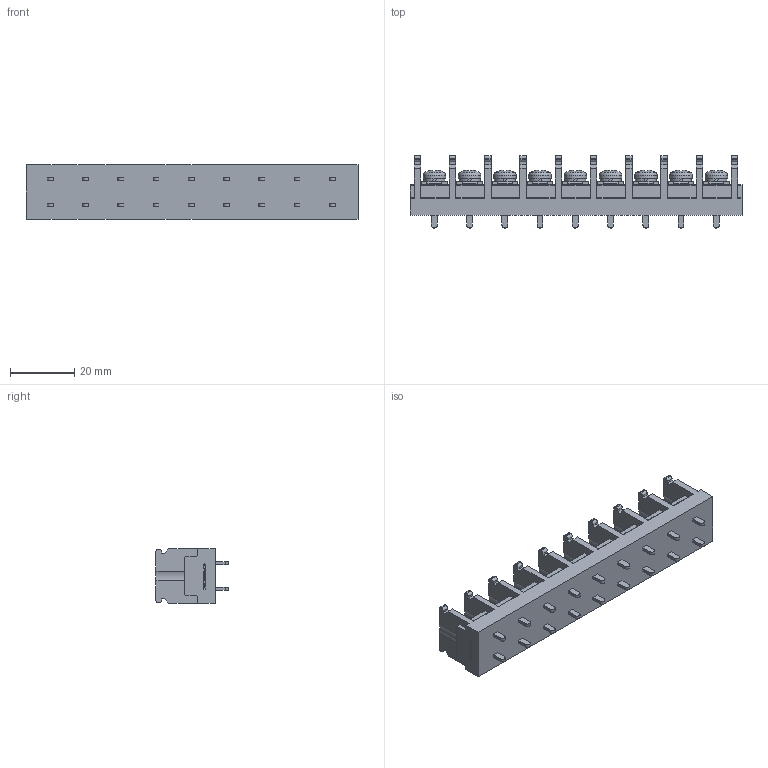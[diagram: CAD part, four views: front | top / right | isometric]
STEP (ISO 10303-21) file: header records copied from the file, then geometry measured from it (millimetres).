
FILE_DESCRIPTION(/* description */ ('Alibre Inc.'),/* implementation_level */ '2;1');
FILE_NAME(/* name */ 'export0',/* time_stamp */ '2015-10-19T19:44:42+09:00',/* author */ (''),/* organization */ (''),/* preprocessor_version */ 'ST-DEVELOPER v14',/* originating_system */ 'Alibre',/* authorisation */ '');
FILE_SCHEMA (('CONFIG_CONTROL_DESIGN'));
Length unit declared in the file: centimetre
Products named in the file (1): ID_1
Bounding box: 103.6 x 22.5 x 17 mm (x, y, z)
Volume: 19582.6 mm3; surface area: 11166.4 mm2
Topology: 1 solids, 1 shells, 1128 faces, 3123 edges, 2073 vertices
Faces by surface type: plane 794, cylinder 167, bspline 104, cone 36, torus 18, sphere 9
Full cylindrical faces by diameter (mm): 4 x9, 6.5 x9, 7 x9
Entity records: 34818 total; most frequent: CARTESIAN_POINT 7411, ORIENTED_EDGE 6120, DIRECTION 4583, EDGE_CURVE 3060, VECTOR 2165, LINE 2165, VERTEX_POINT 2046, AXIS2_PLACEMENT_3D 1592
